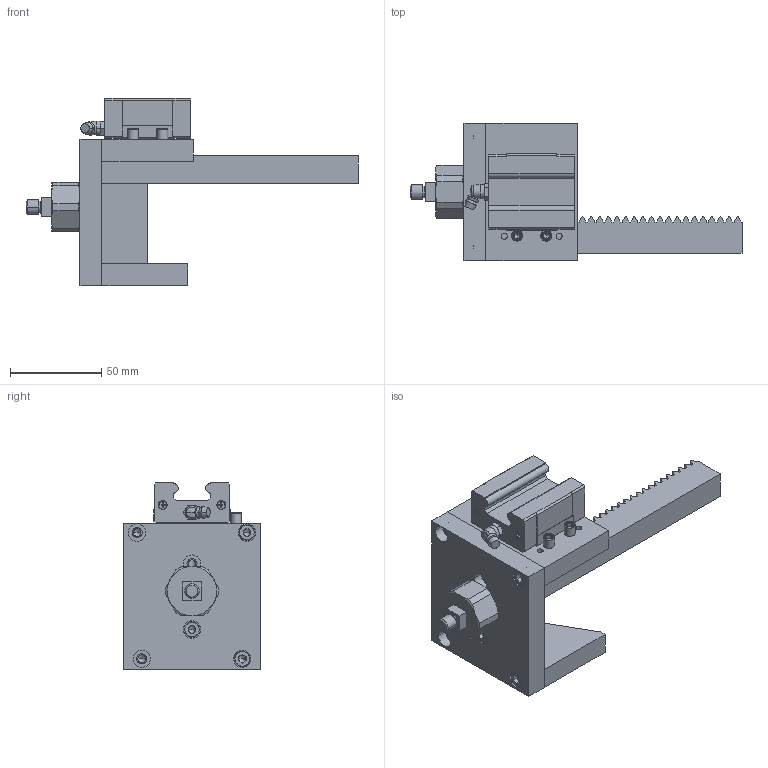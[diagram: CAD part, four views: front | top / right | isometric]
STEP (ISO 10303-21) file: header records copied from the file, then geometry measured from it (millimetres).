
FILE_DESCRIPTION (( 'STEP AP214' ), '1' );
FILE_NAME ('24_Gripper_double_solenoid_mechanism_Finger1.STEP', '2021-02-09T07:44:43', ( '' ), ( '' ), 'SwSTEP 2.0', 'SolidWorks 2017', '' );
FILE_SCHEMA (( 'AUTOMOTIVE_DESIGN' ));
Length unit declared in the file: millimetre
Products named in the file (14): 0578_204_Plate; _0578_SA01; 0578_001_SVR28-160-LLC-RLC; 0578_202_Plate; 0578_005_MSTP6-15; 0578_304_CB5-10; 0578_002_RGEAL1.5Z-140-A100-B30; 0578_Z_SVR28-160-LLC-RLC_2; 0578_203_Chuck; 0578_305_CB5-12; 0578_211_Plate; 0578_004_FJCMX8-1.25; 24_Gripper_double_solenoid_mechanism_Finger1; 0578_303_CB4-16
Assembly tree (18 placements, depth 4):
  24_Gripper_double_solenoid_mechanism_Finger1
    _0578_SA01
      0578_001_SVR28-160-LLC-RLC
        0578_Z_SVR28-160-LLC-RLC_2
      0578_002_RGEAL1.5Z-140-A100-B30
      0578_004_FJCMX8-1.25
      0578_005_MSTP6-15  x2
      0578_202_Plate
      0578_203_Chuck
      0578_204_Plate
      0578_211_Plate
      0578_303_CB4-16
      0578_304_CB5-10
      0578_305_CB5-12  x5
Bounding box: 181.5 x 75 x 102.5 mm (x, y, z)
Volume: 236567.9 mm3; surface area: 72217.4 mm2
Topology: 16 solids, 16 shells, 679 faces, 1718 edges, 1093 vertices
Faces by surface type: plane 379, cylinder 163, cone 109, bspline 28
Entity records: 25471 total; most frequent: CARTESIAN_POINT 4185, ORIENTED_EDGE 2966, DIRECTION 2953, EDGE_CURVE 1483, LINE 989, VECTOR 989, AXIS2_PLACEMENT_3D 982, VERTEX_POINT 965
